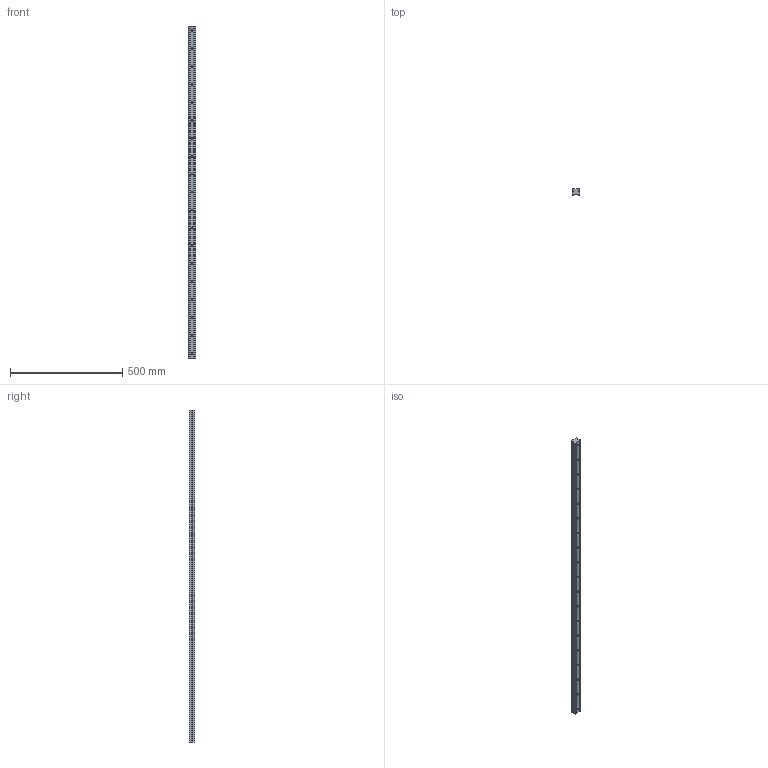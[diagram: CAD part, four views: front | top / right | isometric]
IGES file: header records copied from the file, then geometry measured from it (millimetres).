
Start section: SolidWorks IGES file using analytic representation for surfaces
Global section: file name: C:\Users\IanO\Desktop\Temp File\GENERAL\L1016_v2\L1016.RF35_v2\L1016.RF35_v2_20190612_IGES\L1016.RF35-1480.igs; native system: SolidWorks 2017; preprocessor: SolidWorks 2017; author: IanO; date: 190613.172750; units: millimetre
Bounding box: 34 x 26 x 1480 mm (x, y, z)
Surface area: 193694.4 mm2 (no closed solid volume)
Topology: 0 solids, 0 shells, 159 faces, 2448 edges, 2410 vertices
Faces by surface type: revolution 118, bspline 41
